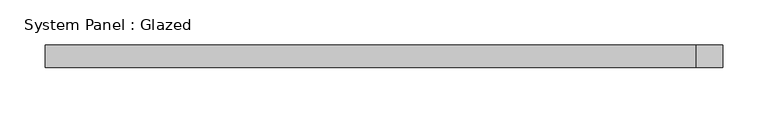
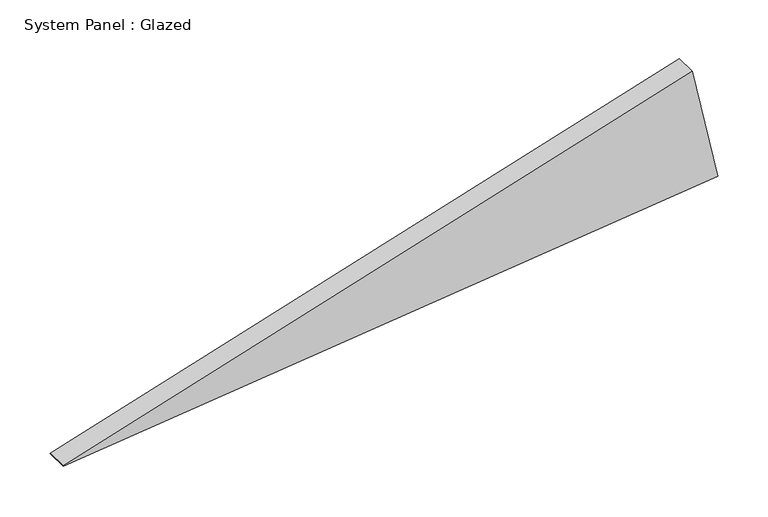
"""IFC4 building model written with IfcOpenShell, lengths in millimetres: plate geometry, System Panel : Glazed."""

from ifc_helpers import new_model, si_unit, frame, origin, place, context, project, spatial, polyline, outline, extrude, source, transform, mapped, element, save


def system_panel_glazed_c2bd8b01(model_context):
    return source(origin(), model_context, "Body", "SweptSolid", [
        extrude(outline(polyline([(0.8279933, -376.172934), (0.0, -375.9960964), (89.0406927, 376.172934), (226.8271081, 346.7453846), (0.8279933, -376.172934)])), frame((0.0, -44.45, 0.0), z_axis=(0.0, 1.0, 0.0), x_axis=(0.0, 0.0, 1.0)), (0.0, 0.0, 1.0), 25.4),
    ])


if __name__ == "__main__":
    model = new_model("IFC4")
    model_context = context("Model", 3, world=origin())
    ifc_project = project(units=[si_unit("LENGTHUNIT", "METRE", prefix="MILLI")], contexts=[model_context])
    site = spatial("IfcSite", under=ifc_project)
    building = spatial("IfcBuilding", under=site)
    placement = place(None, origin())
    system_panel_glazed_shape = system_panel_glazed_c2bd8b01(model_context)
    element("IfcPlate", 1, ObjectType="System Panel : Glazed", at=placement, inside=building, context=model_context, shape_type="MappedRepresentation", body=[
        mapped(system_panel_glazed_shape, transform((0.0, 0.0, 0.0), x_axis=(1.0, 0.0, 0.0), y_axis=(0.0, 1.0, 0.0), z_axis=(0.0, 0.0, 1.0))),
    ])
    save(model, "model.ifc")
